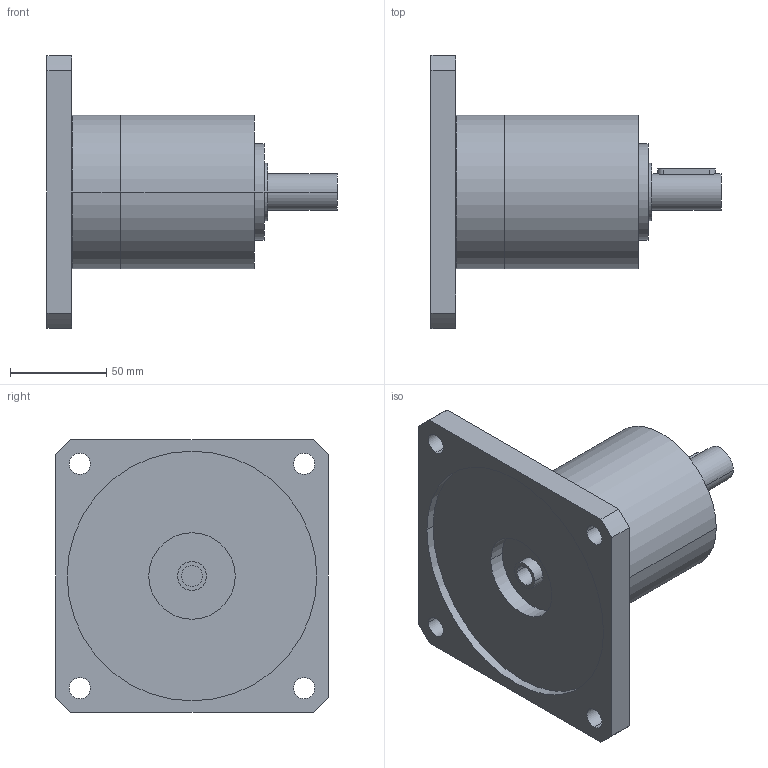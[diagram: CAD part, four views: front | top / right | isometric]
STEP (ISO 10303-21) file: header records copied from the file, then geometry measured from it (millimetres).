
FILE_DESCRIPTION(('CoCreate Modeling STEP Export'),'2;1');
FILE_NAME('GPR100_ig-3-4-5-6_19_B14_11_P16.stp','2014-08-26T10:01:44',(''),(''),'CoCreate Modeling STEP processor for AP214 (Solid Model)','CoCreate Modeling 16.00C 25-Feb-2009 (C) Parametric Technology GmbH','');
FILE_SCHEMA(('AUTOMOTIVE_DESIGN { 1 0 10303 214 1 1 1 1 }'));
Length unit declared in the file: millimetre
Products named in the file (2): GPR100_ig-3-4-5-6_19_B14_11_P16
Assembly tree (1 placements, depth 2):
  GPR100_ig-3-4-5-6_19_B14_11_P16
    GPR100_ig-3-4-5-6_19_B14_11_P16
Bounding box: 151 x 142 x 142 mm (x, y, z)
Volume: 678585.2 mm3; surface area: 81298.3 mm2
Topology: 1 solids, 1 shells, 70 faces, 187 edges, 131 vertices
Faces by surface type: cylinder 42, plane 22, cone 6
Entity records: 1934 total; most frequent: ORIENTED_EDGE 370, CARTESIAN_POINT 359, DIRECTION 262, EDGE_CURVE 185, VERTEX_POINT 131, AXIS2_PLACEMENT_3D 98, EDGE_LOOP 92, FACE_OUTER_BOUND 70
